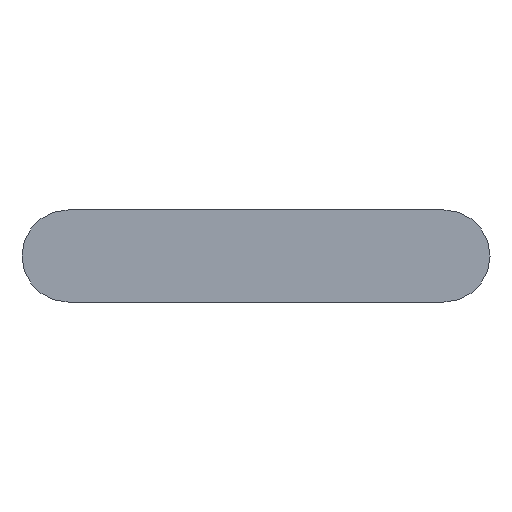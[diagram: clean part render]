
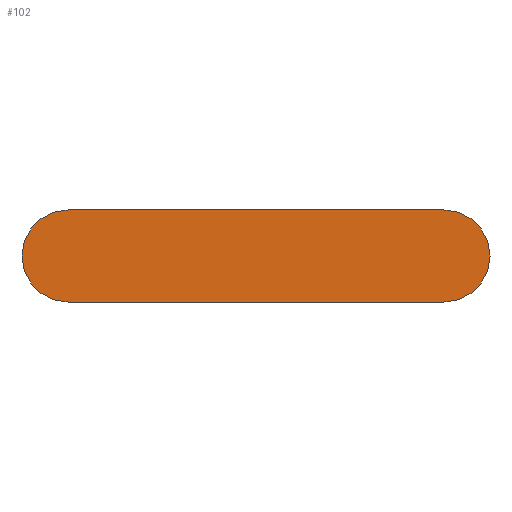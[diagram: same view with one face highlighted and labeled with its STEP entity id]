
A CAD part, front view. The second image highlights one B-rep face of the part: STEP entity #102.
In plain terms, the highlighted planar face has unit normal (0, -1, 0).
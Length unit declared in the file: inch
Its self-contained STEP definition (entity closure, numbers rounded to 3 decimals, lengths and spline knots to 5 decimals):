
#15=CIRCLE('',#119,0.0425);
#17=CIRCLE('',#123,0.0425);
#26=FACE_OUTER_BOUND('',#32,.T.);
#32=EDGE_LOOP('',(#89,#90,#91,#92));
#33=LINE('',#161,#41);
#38=LINE('',#175,#46);
#41=VECTOR('',#131,0.3937);
#46=VECTOR('',#144,0.3937);
#49=VERTEX_POINT('',#159);
#50=VERTEX_POINT('',#160);
#53=VERTEX_POINT('',#168);
#55=VERTEX_POINT('',#174);
#57=EDGE_CURVE('',#49,#50,#33,.T.);
#61=EDGE_CURVE('',#53,#49,#15,.T.);
#64=EDGE_CURVE('',#55,#53,#38,.T.);
#67=EDGE_CURVE('',#50,#55,#17,.T.);
#89=ORIENTED_EDGE('',*,*,#67,.F.);
#90=ORIENTED_EDGE('',*,*,#57,.F.);
#91=ORIENTED_EDGE('',*,*,#61,.F.);
#92=ORIENTED_EDGE('',*,*,#64,.F.);
#96=PLANE('',#126);
#102=ADVANCED_FACE('',(#26),#96,.F.);
#119=AXIS2_PLACEMENT_3D('',#169,#137,#138);
#123=AXIS2_PLACEMENT_3D('',#180,#149,#150);
#126=AXIS2_PLACEMENT_3D('',#183,#155,#156);
#131=DIRECTION('',(-1.,0.,0.));
#137=DIRECTION('center_axis',(0.,1.,0.));
#138=DIRECTION('ref_axis',(0.,0.,1.));
#144=DIRECTION('',(1.,0.,0.));
#149=DIRECTION('center_axis',(0.,1.,0.));
#150=DIRECTION('ref_axis',(0.,0.,-1.));
#155=DIRECTION('center_axis',(0.,1.,0.));
#156=DIRECTION('ref_axis',(1.,0.,0.));
#159=CARTESIAN_POINT('',(0.3895,0.,-0.0425));
#160=CARTESIAN_POINT('',(0.0425,0.,-0.0425));
#161=CARTESIAN_POINT('',(0.3895,0.,-0.0425));
#168=CARTESIAN_POINT('',(0.3895,0.,0.0425));
#169=CARTESIAN_POINT('Origin',(0.3895,0.,0.));
#174=CARTESIAN_POINT('',(0.0425,0.,0.0425));
#175=CARTESIAN_POINT('',(0.0425,0.,0.0425));
#180=CARTESIAN_POINT('Origin',(0.0425,0.,0.));
#183=CARTESIAN_POINT('Origin',(0.216,0.,0.));
